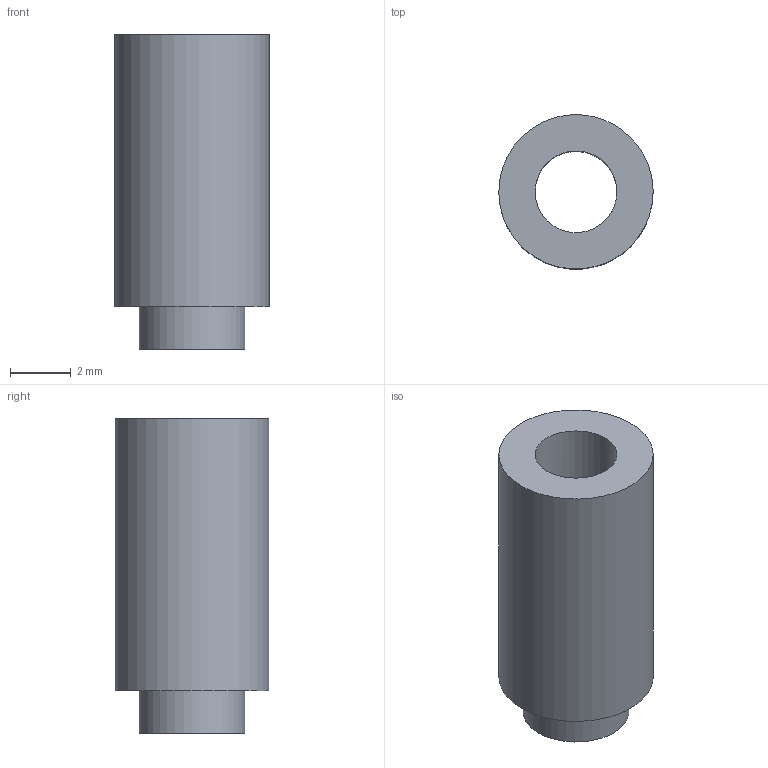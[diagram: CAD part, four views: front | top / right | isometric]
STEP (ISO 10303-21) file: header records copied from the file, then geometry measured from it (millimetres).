
FILE_DESCRIPTION(('FreeCAD Model'),'2;1');
FILE_NAME('Open CASCADE Shape Model','2026-03-20T17:23:25',('Author'),( ''),'Open CASCADE STEP processor 7.8','FreeCAD','Unknown');
FILE_SCHEMA(('AP242_MANAGED_MODEL_BASED_3D_ENGINEERING_MIM_LF. {1 0 10303 442 1 1 4 }'));
Length unit declared in the file: millimetre
Products named in the file (1): 1_transformed
Bounding box: 5.1 x 5.09 x 10.4 mm (x, y, z)
Volume: 139 mm3; surface area: 277.9 mm2
Topology: 1 solids, 1 shells, 6 faces, 10 edges, 7 vertices
Faces by surface type: bspline 6
Entity records: 209 total; most frequent: CARTESIAN_POINT 113, ORIENTED_EDGE 20, EDGE_CURVE 10, FACE_BOUND 9, EDGE_LOOP 9, VERTEX_POINT 7, ADVANCED_FACE 6, B_SPLINE_SURFACE_WITH_KNOTS 3
